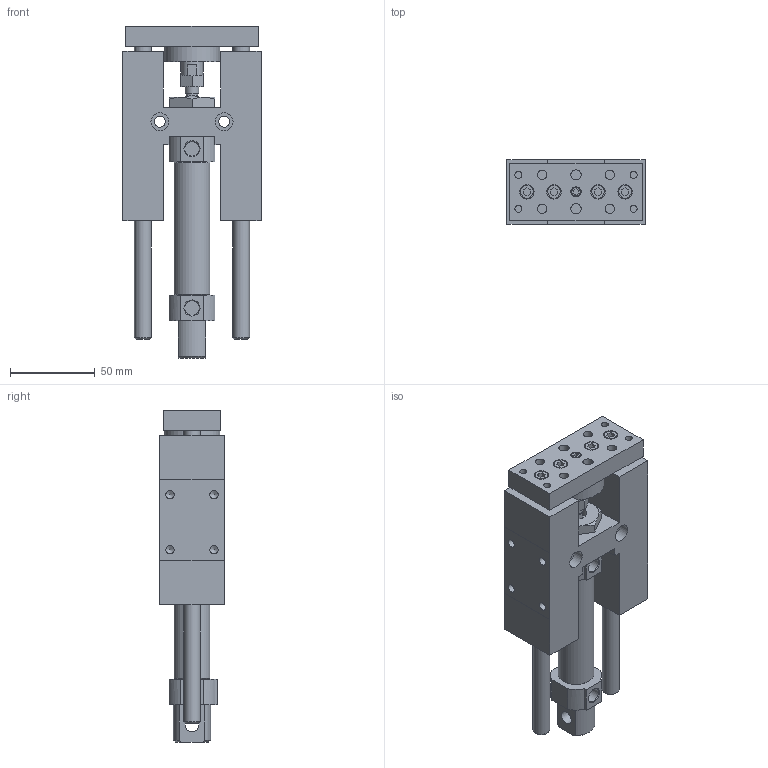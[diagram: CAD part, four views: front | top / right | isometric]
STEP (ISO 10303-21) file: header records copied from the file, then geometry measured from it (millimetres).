
FILE_DESCRIPTION((''),'2;1');
FILE_NAME('I:\3D電子目錄\氣缸\GHB(U)\GHB(U)\GHB(U)20\GHB(U)20x50.stp','2007-10-22T16:12:47',('Administrator'),(''),'Autodesk Inventor 11','Autodesk Inventor 11','');
FILE_SCHEMA(('AUTOMOTIVE_DESIGN { 1 0 10303 214 1 1 1 1 }'));
Length unit declared in the file: millimetre
Products named in the file (1): GHB(U)20
Bounding box: 82 x 38 x 196 mm (x, y, z)
Volume: 305537.8 mm3; surface area: 62550.8 mm2
Topology: 1 solids, 1 shells, 241 faces, 563 edges, 363 vertices
Faces by surface type: plane 132, bspline 40, cylinder 38, cone 31
Full cylindrical faces by diameter (mm): 4.917 x4, 5 x1, 6 x3, 6.6 x1, 7.5 x4, 8 x3, 8.5 x6, 10 x2, 13 x2, 21.2 x1, 33 x1
Entity records: 6788 total; most frequent: CARTESIAN_POINT 1686, DIRECTION 1006, ORIENTED_EDGE 964, EDGE_CURVE 482, EDGE_LOOP 372, AXIS2_PLACEMENT_3D 366, VERTEX_POINT 348, VECTOR 274
